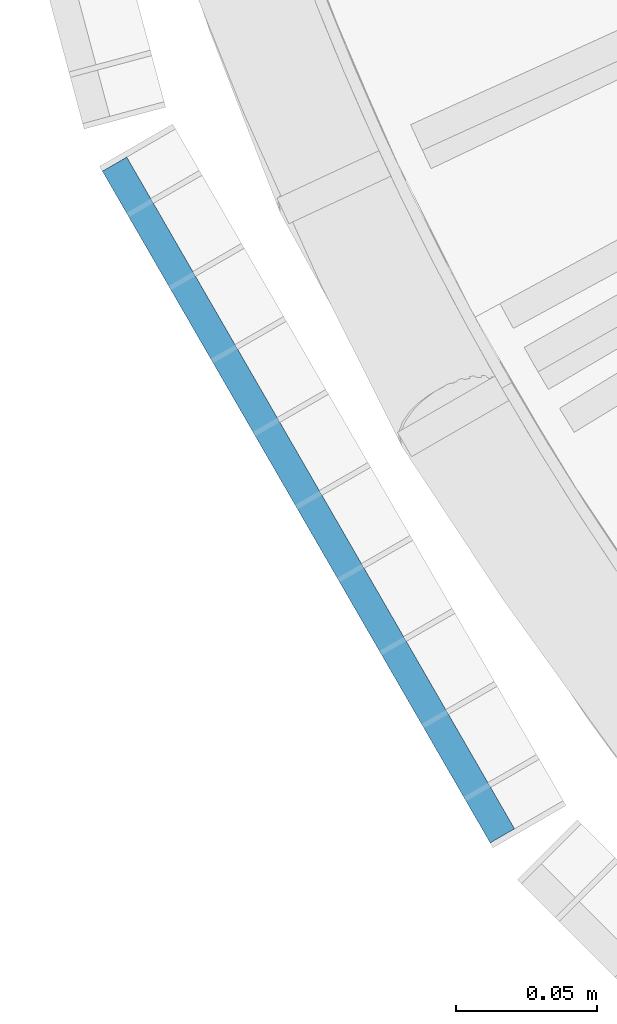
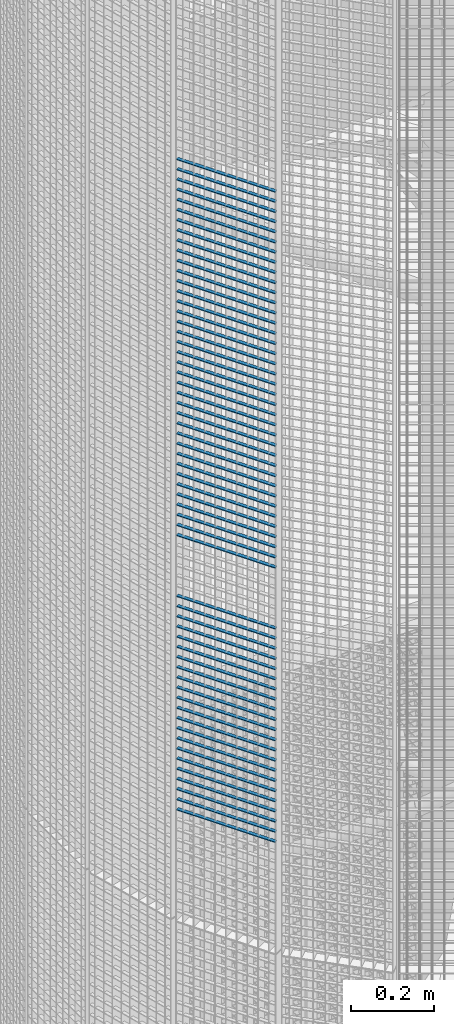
# One storey, part 110 of 1148: 60 beams, 1 element without a shape of its own.
"""IFC2X3 building model written with IfcOpenShell, lengths in millimetres."""

from ifc_helpers import new_model, si_unit, frame, origin_with_axes, origin_2d_with_axis, place, context, subcontext, project, spatial, rectangle, extrude, material, type_object, element, aggregate, save


model = new_model("IFC2X3")

# Units and contexts
model_context = context("Model", 3, precision=1e-05, world=origin_with_axes())
body_context = subcontext(model_context, "Body", "Model", "MODEL_VIEW")
ifc_project = project(units=[si_unit("LENGTHUNIT", "METRE", prefix="MILLI"), si_unit("AREAUNIT", "SQUARE_METRE"), si_unit("VOLUMEUNIT", "CUBIC_METRE"), si_unit("MASSUNIT", "GRAM", prefix="KILO"), si_unit("TIMEUNIT", "SECOND"), si_unit("PLANEANGLEUNIT", "RADIAN"), si_unit("SOLIDANGLEUNIT", "STERADIAN"), si_unit("THERMODYNAMICTEMPERATUREUNIT", "DEGREE_CELSIUS"), si_unit("LUMINOUSINTENSITYUNIT", "LUMEN")], contexts=[model_context])

# Site, building, storey
site_placement = place(None, origin_with_axes())
site = spatial("IfcSite", under=ifc_project, at=site_placement, Name="Undefined", CompositionType="ELEMENT")
building_placement = place(site_placement, origin_with_axes())
building = spatial("IfcBuilding", under=site, at=building_placement, Name="Undefined", CompositionType="ELEMENT")
storey_placement = place(building_placement, origin_with_axes())
storey = spatial("IfcBuildingStorey", under=building, at=storey_placement, Name="Undefined", CompositionType="ELEMENT", Elevation=0.0)

# Assembly, beams
assembly_placement = place(storey_placement, origin_with_axes())
assembly = element("IfcElementAssembly", 1, at=assembly_placement, inside=storey, Name="BORDURE", AssemblyPlace="NOTDEFINED", PredefinedType="NOTDEFINED")
ifc_material = material(Name="STEEL/S235JR")
beam_type = type_object("IfcBeamType", Name="PL2*10", PredefinedType="NOTDEFINED")
beam_1_placement = place(assembly_placement, frame((-1033.29996828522, -437.231955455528, 14250.0), z_axis=(-0.866025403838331, -0.499999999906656, 0.0), x_axis=(0.499999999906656, -0.866025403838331, 0.0)))
beam_1 = element("IfcBeam", 2, at=beam_1_placement, type_object=beam_type, material=ifc_material, Name="ENTRETOISE", context=body_context, shape_type="SweptSolid", body=[
    extrude(rectangle(XDim=2.0, YDim=10.0, at=origin_2d_with_axis()), frame((275.999999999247, 9.09494701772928e-13, 1.53210777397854e-14), z_axis=(-1.0, 0.0, 0.0), x_axis=(0.0, -1.0, 0.0)), (0.0, 0.0, 1.0), 276.0),
])
beam_2_placement = place(assembly_placement, frame((-1033.29996828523, -437.231955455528, 14220.0), z_axis=(-0.866025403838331, -0.499999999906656, 0.0), x_axis=(0.499999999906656, -0.866025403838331, 0.0)))
beam_2 = element("IfcBeam", 3, at=beam_2_placement, type_object=beam_type, material=ifc_material, Name="ENTRETOISE", context=body_context, shape_type="SweptSolid", body=[
    extrude(rectangle(XDim=2.0, YDim=10.0, at=origin_2d_with_axis()), frame((275.999999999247, 9.09494701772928e-13, 1.53210777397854e-14), z_axis=(-1.0, 0.0, 0.0), x_axis=(0.0, -1.0, 0.0)), (0.0, 0.0, 1.0), 276.0),
])
beam_3_placement = place(assembly_placement, frame((-1033.29996828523, -437.231955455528, 14190.0), z_axis=(-0.866025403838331, -0.499999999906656, 0.0), x_axis=(0.499999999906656, -0.866025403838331, 0.0)))
beam_3 = element("IfcBeam", 4, at=beam_3_placement, type_object=beam_type, material=ifc_material, Name="ENTRETOISE", context=body_context, shape_type="SweptSolid", body=[
    extrude(rectangle(XDim=2.0, YDim=10.0, at=origin_2d_with_axis()), frame((275.999999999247, 9.09494701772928e-13, 1.53210777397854e-14), z_axis=(-1.0, 0.0, 0.0), x_axis=(0.0, -1.0, 0.0)), (0.0, 0.0, 1.0), 276.0),
])
beam_4_placement = place(assembly_placement, frame((-1033.29996828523, -437.231955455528, 14160.0), z_axis=(-0.866025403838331, -0.499999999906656, 0.0), x_axis=(0.499999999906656, -0.866025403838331, 0.0)))
beam_4 = element("IfcBeam", 5, at=beam_4_placement, type_object=beam_type, material=ifc_material, Name="ENTRETOISE", context=body_context, shape_type="SweptSolid", body=[
    extrude(rectangle(XDim=2.0, YDim=10.0, at=origin_2d_with_axis()), frame((275.999999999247, 9.09494701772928e-13, 1.53210777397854e-14), z_axis=(-1.0, 0.0, 0.0), x_axis=(0.0, -1.0, 0.0)), (0.0, 0.0, 1.0), 276.0),
])
beam_5_placement = place(assembly_placement, frame((-1033.29996828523, -437.231955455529, 14130.0), z_axis=(-0.866025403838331, -0.499999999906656, 0.0), x_axis=(0.499999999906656, -0.866025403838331, 0.0)))
beam_5 = element("IfcBeam", 6, at=beam_5_placement, type_object=beam_type, material=ifc_material, Name="ENTRETOISE", context=body_context, shape_type="SweptSolid", body=[
    extrude(rectangle(XDim=2.0, YDim=10.0, at=origin_2d_with_axis()), frame((275.999999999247, 9.09494701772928e-13, 1.53210777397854e-14), z_axis=(-1.0, 0.0, 0.0), x_axis=(0.0, -1.0, 0.0)), (0.0, 0.0, 1.0), 276.0),
])
beam_6_placement = place(assembly_placement, frame((-1033.29996828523, -437.231955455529, 14100.0), z_axis=(-0.866025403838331, -0.499999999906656, 0.0), x_axis=(0.499999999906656, -0.866025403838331, 0.0)))
beam_6 = element("IfcBeam", 7, at=beam_6_placement, type_object=beam_type, material=ifc_material, Name="ENTRETOISE", context=body_context, shape_type="SweptSolid", body=[
    extrude(rectangle(XDim=2.0, YDim=10.0, at=origin_2d_with_axis()), frame((275.999999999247, 9.09494701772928e-13, 1.53210777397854e-14), z_axis=(-1.0, 0.0, 0.0), x_axis=(0.0, -1.0, 0.0)), (0.0, 0.0, 1.0), 276.0),
])
beam_7_placement = place(assembly_placement, frame((-1033.29996828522, -437.231955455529, 14070.0), z_axis=(-0.866025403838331, -0.499999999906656, 0.0), x_axis=(0.499999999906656, -0.866025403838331, 0.0)))
beam_7 = element("IfcBeam", 8, at=beam_7_placement, type_object=beam_type, material=ifc_material, Name="ENTRETOISE", context=body_context, shape_type="SweptSolid", body=[
    extrude(rectangle(XDim=2.0, YDim=10.0, at=origin_2d_with_axis()), frame((275.999999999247, 9.09494701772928e-13, 1.53210777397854e-14), z_axis=(-1.0, 0.0, 0.0), x_axis=(0.0, -1.0, 0.0)), (0.0, 0.0, 1.0), 276.0),
])
beam_8_placement = place(assembly_placement, frame((-1033.29996828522, -437.231955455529, 14040.0), z_axis=(-0.866025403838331, -0.499999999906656, 0.0), x_axis=(0.499999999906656, -0.866025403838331, 0.0)))
beam_8 = element("IfcBeam", 9, at=beam_8_placement, type_object=beam_type, material=ifc_material, Name="ENTRETOISE", context=body_context, shape_type="SweptSolid", body=[
    extrude(rectangle(XDim=2.0, YDim=10.0, at=origin_2d_with_axis()), frame((275.999999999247, 9.09494701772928e-13, 1.53210777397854e-14), z_axis=(-1.0, 0.0, 0.0), x_axis=(0.0, -1.0, 0.0)), (0.0, 0.0, 1.0), 276.0),
])
beam_9_placement = place(assembly_placement, frame((-1033.29996828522, -437.231955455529, 14010.0), z_axis=(-0.866025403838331, -0.499999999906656, 0.0), x_axis=(0.499999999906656, -0.866025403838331, 0.0)))
beam_9 = element("IfcBeam", 10, at=beam_9_placement, type_object=beam_type, material=ifc_material, Name="ENTRETOISE", context=body_context, shape_type="SweptSolid", body=[
    extrude(rectangle(XDim=2.0, YDim=10.0, at=origin_2d_with_axis()), frame((275.999999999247, 9.09494701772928e-13, 1.53210777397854e-14), z_axis=(-1.0, 0.0, 0.0), x_axis=(0.0, -1.0, 0.0)), (0.0, 0.0, 1.0), 276.0),
])
beam_10_placement = place(assembly_placement, frame((-1033.29996828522, -437.231955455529, 13980.0), z_axis=(-0.866025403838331, -0.499999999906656, 0.0), x_axis=(0.499999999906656, -0.866025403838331, 0.0)))
beam_10 = element("IfcBeam", 11, at=beam_10_placement, type_object=beam_type, material=ifc_material, Name="ENTRETOISE", context=body_context, shape_type="SweptSolid", body=[
    extrude(rectangle(XDim=2.0, YDim=10.0, at=origin_2d_with_axis()), frame((275.999999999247, 9.09494701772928e-13, 1.53210777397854e-14), z_axis=(-1.0, 0.0, 0.0), x_axis=(0.0, -1.0, 0.0)), (0.0, 0.0, 1.0), 276.0),
])
beam_11_placement = place(assembly_placement, frame((-1033.29996828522, -437.231955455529, 13950.0), z_axis=(-0.866025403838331, -0.499999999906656, 0.0), x_axis=(0.499999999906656, -0.866025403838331, 0.0)))
beam_11 = element("IfcBeam", 12, at=beam_11_placement, type_object=beam_type, material=ifc_material, Name="ENTRETOISE", context=body_context, shape_type="SweptSolid", body=[
    extrude(rectangle(XDim=2.0, YDim=10.0, at=origin_2d_with_axis()), frame((275.999999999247, 9.09494701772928e-13, 1.53210777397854e-14), z_axis=(-1.0, 0.0, 0.0), x_axis=(0.0, -1.0, 0.0)), (0.0, 0.0, 1.0), 276.0),
])
beam_12_placement = place(assembly_placement, frame((-1033.29996828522, -437.231955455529, 13920.0), z_axis=(-0.866025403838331, -0.499999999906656, 0.0), x_axis=(0.499999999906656, -0.866025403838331, 0.0)))
beam_12 = element("IfcBeam", 13, at=beam_12_placement, type_object=beam_type, material=ifc_material, Name="ENTRETOISE", context=body_context, shape_type="SweptSolid", body=[
    extrude(rectangle(XDim=2.0, YDim=10.0, at=origin_2d_with_axis()), frame((275.999999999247, 9.09494701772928e-13, 1.53210777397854e-14), z_axis=(-1.0, 0.0, 0.0), x_axis=(0.0, -1.0, 0.0)), (0.0, 0.0, 1.0), 276.0),
])
beam_13_placement = place(assembly_placement, frame((-1033.29996828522, -437.231955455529, 13890.0), z_axis=(-0.866025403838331, -0.499999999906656, 0.0), x_axis=(0.499999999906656, -0.866025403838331, 0.0)))
beam_13 = element("IfcBeam", 14, at=beam_13_placement, type_object=beam_type, material=ifc_material, Name="ENTRETOISE", context=body_context, shape_type="SweptSolid", body=[
    extrude(rectangle(XDim=2.0, YDim=10.0, at=origin_2d_with_axis()), frame((275.999999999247, 9.09494701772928e-13, 1.53210777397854e-14), z_axis=(-1.0, 0.0, 0.0), x_axis=(0.0, -1.0, 0.0)), (0.0, 0.0, 1.0), 276.0),
])
beam_14_placement = place(assembly_placement, frame((-1033.29996828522, -437.23195545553, 13860.0), z_axis=(-0.866025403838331, -0.499999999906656, 0.0), x_axis=(0.499999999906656, -0.866025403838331, 0.0)))
beam_14 = element("IfcBeam", 15, at=beam_14_placement, type_object=beam_type, material=ifc_material, Name="ENTRETOISE", context=body_context, shape_type="SweptSolid", body=[
    extrude(rectangle(XDim=2.0, YDim=10.0, at=origin_2d_with_axis()), frame((275.999999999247, 9.09494701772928e-13, 1.53210777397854e-14), z_axis=(-1.0, 0.0, 0.0), x_axis=(0.0, -1.0, 0.0)), (0.0, 0.0, 1.0), 276.0),
])
beam_15_placement = place(assembly_placement, frame((-1033.29996828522, -437.23195545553, 13830.0), z_axis=(-0.866025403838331, -0.499999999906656, 0.0), x_axis=(0.499999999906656, -0.866025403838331, 0.0)))
beam_15 = element("IfcBeam", 16, at=beam_15_placement, type_object=beam_type, material=ifc_material, Name="ENTRETOISE", context=body_context, shape_type="SweptSolid", body=[
    extrude(rectangle(XDim=2.0, YDim=10.0, at=origin_2d_with_axis()), frame((275.999999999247, 9.09494701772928e-13, 1.53210777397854e-14), z_axis=(-1.0, 0.0, 0.0), x_axis=(0.0, -1.0, 0.0)), (0.0, 0.0, 1.0), 276.0),
])
beam_16_placement = place(assembly_placement, frame((-1033.29996828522, -437.23195545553, 13800.0), z_axis=(-0.866025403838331, -0.499999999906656, 0.0), x_axis=(0.499999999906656, -0.866025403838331, 0.0)))
beam_16 = element("IfcBeam", 17, at=beam_16_placement, type_object=beam_type, material=ifc_material, Name="ENTRETOISE", context=body_context, shape_type="SweptSolid", body=[
    extrude(rectangle(XDim=2.0, YDim=10.0, at=origin_2d_with_axis()), frame((275.999999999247, 9.09494701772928e-13, 1.53210777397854e-14), z_axis=(-1.0, 0.0, 0.0), x_axis=(0.0, -1.0, 0.0)), (0.0, 0.0, 1.0), 276.0),
])
beam_17_placement = place(assembly_placement, frame((-1033.29996828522, -437.23195545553, 13770.0), z_axis=(-0.866025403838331, -0.499999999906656, 0.0), x_axis=(0.499999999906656, -0.866025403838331, 0.0)))
beam_17 = element("IfcBeam", 18, at=beam_17_placement, type_object=beam_type, material=ifc_material, Name="ENTRETOISE", context=body_context, shape_type="SweptSolid", body=[
    extrude(rectangle(XDim=2.0, YDim=10.0, at=origin_2d_with_axis()), frame((275.999999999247, 9.09494701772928e-13, 1.53210777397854e-14), z_axis=(-1.0, 0.0, 0.0), x_axis=(0.0, -1.0, 0.0)), (0.0, 0.0, 1.0), 276.0),
])
beam_18_placement = place(assembly_placement, frame((-1033.29996828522, -437.23195545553, 13740.0), z_axis=(-0.866025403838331, -0.499999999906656, 0.0), x_axis=(0.499999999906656, -0.866025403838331, 0.0)))
beam_18 = element("IfcBeam", 19, at=beam_18_placement, type_object=beam_type, material=ifc_material, Name="ENTRETOISE", context=body_context, shape_type="SweptSolid", body=[
    extrude(rectangle(XDim=2.0, YDim=10.0, at=origin_2d_with_axis()), frame((275.999999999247, 9.09494701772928e-13, 1.53210777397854e-14), z_axis=(-1.0, 0.0, 0.0), x_axis=(0.0, -1.0, 0.0)), (0.0, 0.0, 1.0), 276.0),
])
beam_19_placement = place(assembly_placement, frame((-1033.29996828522, -437.23195545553, 13710.0), z_axis=(-0.866025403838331, -0.499999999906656, 0.0), x_axis=(0.499999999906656, -0.866025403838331, 0.0)))
beam_19 = element("IfcBeam", 20, at=beam_19_placement, type_object=beam_type, material=ifc_material, Name="ENTRETOISE", context=body_context, shape_type="SweptSolid", body=[
    extrude(rectangle(XDim=2.0, YDim=10.0, at=origin_2d_with_axis()), frame((275.999999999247, 9.09494701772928e-13, 1.53210777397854e-14), z_axis=(-1.0, 0.0, 0.0), x_axis=(0.0, -1.0, 0.0)), (0.0, 0.0, 1.0), 276.0),
])
beam_20_placement = place(assembly_placement, frame((-1033.29996828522, -437.23195545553, 13680.0), z_axis=(-0.866025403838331, -0.499999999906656, 0.0), x_axis=(0.499999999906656, -0.866025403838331, 0.0)))
beam_20 = element("IfcBeam", 21, at=beam_20_placement, type_object=beam_type, material=ifc_material, Name="ENTRETOISE", context=body_context, shape_type="SweptSolid", body=[
    extrude(rectangle(XDim=2.0, YDim=10.0, at=origin_2d_with_axis()), frame((275.999999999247, 9.09494701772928e-13, 1.53210777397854e-14), z_axis=(-1.0, 0.0, 0.0), x_axis=(0.0, -1.0, 0.0)), (0.0, 0.0, 1.0), 276.0),
])
beam_21_placement = place(assembly_placement, frame((-1033.29996828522, -437.23195545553, 13650.0), z_axis=(-0.866025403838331, -0.499999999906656, 0.0), x_axis=(0.499999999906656, -0.866025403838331, 0.0)))
beam_21 = element("IfcBeam", 22, at=beam_21_placement, type_object=beam_type, material=ifc_material, Name="ENTRETOISE", context=body_context, shape_type="SweptSolid", body=[
    extrude(rectangle(XDim=2.0, YDim=10.0, at=origin_2d_with_axis()), frame((275.999999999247, 9.09494701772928e-13, 1.53210777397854e-14), z_axis=(-1.0, 0.0, 0.0), x_axis=(0.0, -1.0, 0.0)), (0.0, 0.0, 1.0), 276.0),
])
beam_22_placement = place(assembly_placement, frame((-1033.29996828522, -437.23195545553, 13620.0), z_axis=(-0.866025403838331, -0.499999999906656, 0.0), x_axis=(0.499999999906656, -0.866025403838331, 0.0)))
beam_22 = element("IfcBeam", 23, at=beam_22_placement, type_object=beam_type, material=ifc_material, Name="ENTRETOISE", context=body_context, shape_type="SweptSolid", body=[
    extrude(rectangle(XDim=2.0, YDim=10.0, at=origin_2d_with_axis()), frame((275.999999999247, 9.09494701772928e-13, 1.53210777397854e-14), z_axis=(-1.0, 0.0, 0.0), x_axis=(0.0, -1.0, 0.0)), (0.0, 0.0, 1.0), 276.0),
])
beam_23_placement = place(assembly_placement, frame((-1033.29996828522, -437.23195545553, 13590.0), z_axis=(-0.866025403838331, -0.499999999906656, 0.0), x_axis=(0.499999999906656, -0.866025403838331, 0.0)))
beam_23 = element("IfcBeam", 24, at=beam_23_placement, type_object=beam_type, material=ifc_material, Name="ENTRETOISE", context=body_context, shape_type="SweptSolid", body=[
    extrude(rectangle(XDim=2.0, YDim=10.0, at=origin_2d_with_axis()), frame((275.999999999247, 9.09494701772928e-13, 1.53210777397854e-14), z_axis=(-1.0, 0.0, 0.0), x_axis=(0.0, -1.0, 0.0)), (0.0, 0.0, 1.0), 276.0),
])
beam_24_placement = place(assembly_placement, frame((-1033.29996828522, -437.23195545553, 13560.0), z_axis=(-0.866025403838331, -0.499999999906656, 0.0), x_axis=(0.499999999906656, -0.866025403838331, 0.0)))
beam_24 = element("IfcBeam", 25, at=beam_24_placement, type_object=beam_type, material=ifc_material, Name="ENTRETOISE", context=body_context, shape_type="SweptSolid", body=[
    extrude(rectangle(XDim=2.0, YDim=10.0, at=origin_2d_with_axis()), frame((275.999999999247, 9.09494701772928e-13, 1.53210777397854e-14), z_axis=(-1.0, 0.0, 0.0), x_axis=(0.0, -1.0, 0.0)), (0.0, 0.0, 1.0), 276.0),
])
beam_25_placement = place(assembly_placement, frame((-1033.29996828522, -437.23195545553, 13530.0), z_axis=(-0.866025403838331, -0.499999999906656, 0.0), x_axis=(0.499999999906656, -0.866025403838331, 0.0)))
beam_25 = element("IfcBeam", 26, at=beam_25_placement, type_object=beam_type, material=ifc_material, Name="ENTRETOISE", context=body_context, shape_type="SweptSolid", body=[
    extrude(rectangle(XDim=2.0, YDim=10.0, at=origin_2d_with_axis()), frame((275.999999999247, 9.09494701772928e-13, 1.53210777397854e-14), z_axis=(-1.0, 0.0, 0.0), x_axis=(0.0, -1.0, 0.0)), (0.0, 0.0, 1.0), 276.0),
])
beam_26_placement = place(assembly_placement, frame((-1033.29996828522, -437.231955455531, 13500.0), z_axis=(-0.866025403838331, -0.499999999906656, 0.0), x_axis=(0.499999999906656, -0.866025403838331, 0.0)))
beam_26 = element("IfcBeam", 27, at=beam_26_placement, type_object=beam_type, material=ifc_material, Name="ENTRETOISE", context=body_context, shape_type="SweptSolid", body=[
    extrude(rectangle(XDim=2.0, YDim=10.0, at=origin_2d_with_axis()), frame((275.999999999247, 9.09494701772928e-13, 1.53210777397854e-14), z_axis=(-1.0, 0.0, 0.0), x_axis=(0.0, -1.0, 0.0)), (0.0, 0.0, 1.0), 276.0),
])
beam_27_placement = place(assembly_placement, frame((-1033.29996828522, -437.231955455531, 13470.0), z_axis=(-0.866025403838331, -0.499999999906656, 0.0), x_axis=(0.499999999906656, -0.866025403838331, 0.0)))
beam_27 = element("IfcBeam", 28, at=beam_27_placement, type_object=beam_type, material=ifc_material, Name="ENTRETOISE", context=body_context, shape_type="SweptSolid", body=[
    extrude(rectangle(XDim=2.0, YDim=10.0, at=origin_2d_with_axis()), frame((275.999999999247, 9.09494701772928e-13, 1.53210777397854e-14), z_axis=(-1.0, 0.0, 0.0), x_axis=(0.0, -1.0, 0.0)), (0.0, 0.0, 1.0), 276.0),
])
beam_28_placement = place(assembly_placement, frame((-1033.29996828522, -437.231955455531, 13440.0), z_axis=(-0.866025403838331, -0.499999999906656, 0.0), x_axis=(0.499999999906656, -0.866025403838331, 0.0)))
beam_28 = element("IfcBeam", 29, at=beam_28_placement, type_object=beam_type, material=ifc_material, Name="ENTRETOISE", context=body_context, shape_type="SweptSolid", body=[
    extrude(rectangle(XDim=2.0, YDim=10.0, at=origin_2d_with_axis()), frame((275.999999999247, 9.09494701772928e-13, 1.53210777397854e-14), z_axis=(-1.0, 0.0, 0.0), x_axis=(0.0, -1.0, 0.0)), (0.0, 0.0, 1.0), 276.0),
])
beam_29_placement = place(assembly_placement, frame((-1033.29996828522, -437.231955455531, 13410.0), z_axis=(-0.866025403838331, -0.499999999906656, 0.0), x_axis=(0.499999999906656, -0.866025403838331, 0.0)))
beam_29 = element("IfcBeam", 30, at=beam_29_placement, type_object=beam_type, material=ifc_material, Name="ENTRETOISE", context=body_context, shape_type="SweptSolid", body=[
    extrude(rectangle(XDim=2.0, YDim=10.0, at=origin_2d_with_axis()), frame((275.999999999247, 9.09494701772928e-13, 1.53210777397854e-14), z_axis=(-1.0, 0.0, 0.0), x_axis=(0.0, -1.0, 0.0)), (0.0, 0.0, 1.0), 276.0),
])
beam_30_placement = place(assembly_placement, frame((-1033.29996828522, -437.231955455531, 13380.0), z_axis=(-0.866025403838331, -0.499999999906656, 0.0), x_axis=(0.499999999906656, -0.866025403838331, 0.0)))
beam_30 = element("IfcBeam", 31, at=beam_30_placement, type_object=beam_type, material=ifc_material, Name="ENTRETOISE", context=body_context, shape_type="SweptSolid", body=[
    extrude(rectangle(XDim=2.0, YDim=10.0, at=origin_2d_with_axis()), frame((275.999999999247, 9.09494701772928e-13, 1.53210777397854e-14), z_axis=(-1.0, 0.0, 0.0), x_axis=(0.0, -1.0, 0.0)), (0.0, 0.0, 1.0), 276.0),
])
beam_31_placement = place(assembly_placement, frame((-1033.29996828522, -437.231955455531, 13350.0), z_axis=(-0.866025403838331, -0.499999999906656, 0.0), x_axis=(0.499999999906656, -0.866025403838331, 0.0)))
beam_31 = element("IfcBeam", 32, at=beam_31_placement, type_object=beam_type, material=ifc_material, Name="ENTRETOISE", context=body_context, shape_type="SweptSolid", body=[
    extrude(rectangle(XDim=2.0, YDim=10.0, at=origin_2d_with_axis()), frame((275.999999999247, 9.09494701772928e-13, 1.53210777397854e-14), z_axis=(-1.0, 0.0, 0.0), x_axis=(0.0, -1.0, 0.0)), (0.0, 0.0, 1.0), 276.0),
])
beam_32_placement = place(assembly_placement, frame((-1033.29996828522, -437.231955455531, 13320.0), z_axis=(-0.866025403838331, -0.499999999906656, 0.0), x_axis=(0.499999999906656, -0.866025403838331, 0.0)))
beam_32 = element("IfcBeam", 33, at=beam_32_placement, type_object=beam_type, material=ifc_material, Name="ENTRETOISE", context=body_context, shape_type="SweptSolid", body=[
    extrude(rectangle(XDim=2.0, YDim=10.0, at=origin_2d_with_axis()), frame((275.999999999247, 9.09494701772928e-13, 1.53210777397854e-14), z_axis=(-1.0, 0.0, 0.0), x_axis=(0.0, -1.0, 0.0)), (0.0, 0.0, 1.0), 276.0),
])
beam_33_placement = place(assembly_placement, frame((-1033.29996828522, -437.231955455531, 13290.0), z_axis=(-0.866025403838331, -0.499999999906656, 0.0), x_axis=(0.499999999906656, -0.866025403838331, 0.0)))
beam_33 = element("IfcBeam", 34, at=beam_33_placement, type_object=beam_type, material=ifc_material, Name="ENTRETOISE", context=body_context, shape_type="SweptSolid", body=[
    extrude(rectangle(XDim=2.0, YDim=10.0, at=origin_2d_with_axis()), frame((275.999999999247, 9.09494701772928e-13, 1.53210777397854e-14), z_axis=(-1.0, 0.0, 0.0), x_axis=(0.0, -1.0, 0.0)), (0.0, 0.0, 1.0), 276.0),
])
beam_34_placement = place(assembly_placement, frame((-1033.29996828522, -437.231955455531, 13260.0), z_axis=(-0.866025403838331, -0.499999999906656, 0.0), x_axis=(0.499999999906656, -0.866025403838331, 0.0)))
beam_34 = element("IfcBeam", 35, at=beam_34_placement, type_object=beam_type, material=ifc_material, Name="ENTRETOISE", context=body_context, shape_type="SweptSolid", body=[
    extrude(rectangle(XDim=2.0, YDim=10.0, at=origin_2d_with_axis()), frame((275.999999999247, 9.09494701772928e-13, 1.53210777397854e-14), z_axis=(-1.0, 0.0, 0.0), x_axis=(0.0, -1.0, 0.0)), (0.0, 0.0, 1.0), 276.0),
])
beam_35_placement = place(assembly_placement, frame((-1033.29996828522, -437.231955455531, 13230.0), z_axis=(-0.866025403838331, -0.499999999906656, 0.0), x_axis=(0.499999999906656, -0.866025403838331, 0.0)))
beam_35 = element("IfcBeam", 36, at=beam_35_placement, type_object=beam_type, material=ifc_material, Name="ENTRETOISE", context=body_context, shape_type="SweptSolid", body=[
    extrude(rectangle(XDim=2.0, YDim=10.0, at=origin_2d_with_axis()), frame((275.999999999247, 9.09494701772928e-13, 1.53210777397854e-14), z_axis=(-1.0, 0.0, 0.0), x_axis=(0.0, -1.0, 0.0)), (0.0, 0.0, 1.0), 276.0),
])
beam_36_placement = place(assembly_placement, frame((-1033.29996828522, -437.231955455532, 13200.0), z_axis=(-0.866025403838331, -0.499999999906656, 0.0), x_axis=(0.499999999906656, -0.866025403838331, 0.0)))
beam_36 = element("IfcBeam", 37, at=beam_36_placement, type_object=beam_type, material=ifc_material, Name="ENTRETOISE", context=body_context, shape_type="SweptSolid", body=[
    extrude(rectangle(XDim=2.0, YDim=10.0, at=origin_2d_with_axis()), frame((275.999999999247, 9.09494701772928e-13, 1.53210777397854e-14), z_axis=(-1.0, 0.0, 0.0), x_axis=(0.0, -1.0, 0.0)), (0.0, 0.0, 1.0), 276.0),
])
beam_37_placement = place(assembly_placement, frame((-1033.29996828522, -437.231955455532, 13170.0), z_axis=(-0.866025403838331, -0.499999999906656, 0.0), x_axis=(0.499999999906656, -0.866025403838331, 0.0)))
beam_37 = element("IfcBeam", 38, at=beam_37_placement, type_object=beam_type, material=ifc_material, Name="ENTRETOISE", context=body_context, shape_type="SweptSolid", body=[
    extrude(rectangle(XDim=2.0, YDim=10.0, at=origin_2d_with_axis()), frame((275.999999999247, 9.09494701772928e-13, 1.53210777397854e-14), z_axis=(-1.0, 0.0, 0.0), x_axis=(0.0, -1.0, 0.0)), (0.0, 0.0, 1.0), 276.0),
])
beam_38_placement = place(assembly_placement, frame((-1033.29996828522, -437.231955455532, 13140.0), z_axis=(-0.866025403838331, -0.499999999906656, 0.0), x_axis=(0.499999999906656, -0.866025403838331, 0.0)))
beam_38 = element("IfcBeam", 39, at=beam_38_placement, type_object=beam_type, material=ifc_material, Name="ENTRETOISE", context=body_context, shape_type="SweptSolid", body=[
    extrude(rectangle(XDim=2.0, YDim=10.0, at=origin_2d_with_axis()), frame((275.999999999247, 9.09494701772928e-13, 1.53210777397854e-14), z_axis=(-1.0, 0.0, 0.0), x_axis=(0.0, -1.0, 0.0)), (0.0, 0.0, 1.0), 276.0),
])
beam_39_placement = place(assembly_placement, frame((-1033.29996828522, -437.231955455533, 12720.0), z_axis=(-0.866025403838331, -0.499999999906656, 0.0), x_axis=(0.499999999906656, -0.866025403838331, 0.0)))
beam_39 = element("IfcBeam", 40, at=beam_39_placement, type_object=beam_type, material=ifc_material, Name="ENTRETOISE", context=body_context, shape_type="SweptSolid", body=[
    extrude(rectangle(XDim=2.0, YDim=10.0, at=origin_2d_with_axis()), frame((275.999999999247, 9.09494701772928e-13, 1.53210777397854e-14), z_axis=(-1.0, 0.0, 0.0), x_axis=(0.0, -1.0, 0.0)), (0.0, 0.0, 1.0), 276.0),
])
beam_40_placement = place(assembly_placement, frame((-1033.29996828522, -437.231955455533, 12690.0), z_axis=(-0.866025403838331, -0.499999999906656, 0.0), x_axis=(0.499999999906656, -0.866025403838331, 0.0)))
beam_40 = element("IfcBeam", 41, at=beam_40_placement, type_object=beam_type, material=ifc_material, Name="ENTRETOISE", context=body_context, shape_type="SweptSolid", body=[
    extrude(rectangle(XDim=2.0, YDim=10.0, at=origin_2d_with_axis()), frame((275.999999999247, 9.09494701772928e-13, 1.53210777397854e-14), z_axis=(-1.0, 0.0, 0.0), x_axis=(0.0, -1.0, 0.0)), (0.0, 0.0, 1.0), 276.0),
])
beam_41_placement = place(assembly_placement, frame((-1033.29996828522, -437.231955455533, 12750.0), z_axis=(-0.866025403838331, -0.499999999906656, 0.0), x_axis=(0.499999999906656, -0.866025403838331, 0.0)))
beam_41 = element("IfcBeam", 42, at=beam_41_placement, type_object=beam_type, material=ifc_material, Name="ENTRETOISE", context=body_context, shape_type="SweptSolid", body=[
    extrude(rectangle(XDim=2.0, YDim=10.0, at=origin_2d_with_axis()), frame((275.999999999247, 9.09494701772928e-13, 1.53210777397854e-14), z_axis=(-1.0, 0.0, 0.0), x_axis=(0.0, -1.0, 0.0)), (0.0, 0.0, 1.0), 276.0),
])
beam_42_placement = place(assembly_placement, frame((-1033.29996828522, -437.231955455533, 12660.0), z_axis=(-0.866025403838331, -0.499999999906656, 0.0), x_axis=(0.499999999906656, -0.866025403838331, 0.0)))
beam_42 = element("IfcBeam", 43, at=beam_42_placement, type_object=beam_type, material=ifc_material, Name="ENTRETOISE", context=body_context, shape_type="SweptSolid", body=[
    extrude(rectangle(XDim=2.0, YDim=10.0, at=origin_2d_with_axis()), frame((275.999999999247, 9.09494701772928e-13, 1.53210777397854e-14), z_axis=(-1.0, 0.0, 0.0), x_axis=(0.0, -1.0, 0.0)), (0.0, 0.0, 1.0), 276.0),
])
beam_43_placement = place(assembly_placement, frame((-1033.29996828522, -437.231955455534, 12630.0), z_axis=(-0.866025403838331, -0.499999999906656, 0.0), x_axis=(0.499999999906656, -0.866025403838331, 0.0)))
beam_43 = element("IfcBeam", 44, at=beam_43_placement, type_object=beam_type, material=ifc_material, Name="ENTRETOISE", context=body_context, shape_type="SweptSolid", body=[
    extrude(rectangle(XDim=2.0, YDim=10.0, at=origin_2d_with_axis()), frame((275.999999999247, 9.09494701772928e-13, 1.53210777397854e-14), z_axis=(-1.0, 0.0, 0.0), x_axis=(0.0, -1.0, 0.0)), (0.0, 0.0, 1.0), 276.0),
])
beam_44_placement = place(assembly_placement, frame((-1033.29996828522, -437.231955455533, 12780.0), z_axis=(-0.866025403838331, -0.499999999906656, 0.0), x_axis=(0.499999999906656, -0.866025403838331, 0.0)))
beam_44 = element("IfcBeam", 45, at=beam_44_placement, type_object=beam_type, material=ifc_material, Name="ENTRETOISE", context=body_context, shape_type="SweptSolid", body=[
    extrude(rectangle(XDim=2.0, YDim=10.0, at=origin_2d_with_axis()), frame((275.999999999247, 9.09494701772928e-13, 1.53210777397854e-14), z_axis=(-1.0, 0.0, 0.0), x_axis=(0.0, -1.0, 0.0)), (0.0, 0.0, 1.0), 276.0),
])
beam_45_placement = place(assembly_placement, frame((-1033.29996828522, -437.231955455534, 12600.0), z_axis=(-0.866025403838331, -0.499999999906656, 0.0), x_axis=(0.499999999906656, -0.866025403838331, 0.0)))
beam_45 = element("IfcBeam", 46, at=beam_45_placement, type_object=beam_type, material=ifc_material, Name="ENTRETOISE", context=body_context, shape_type="SweptSolid", body=[
    extrude(rectangle(XDim=2.0, YDim=10.0, at=origin_2d_with_axis()), frame((275.999999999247, 9.09494701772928e-13, 1.53210777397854e-14), z_axis=(-1.0, 0.0, 0.0), x_axis=(0.0, -1.0, 0.0)), (0.0, 0.0, 1.0), 276.0),
])
beam_46_placement = place(assembly_placement, frame((-1033.29996828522, -437.231955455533, 12810.0), z_axis=(-0.866025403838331, -0.499999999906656, 0.0), x_axis=(0.499999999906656, -0.866025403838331, 0.0)))
beam_46 = element("IfcBeam", 47, at=beam_46_placement, type_object=beam_type, material=ifc_material, Name="ENTRETOISE", context=body_context, shape_type="SweptSolid", body=[
    extrude(rectangle(XDim=2.0, YDim=10.0, at=origin_2d_with_axis()), frame((275.999999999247, 9.09494701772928e-13, 1.53210777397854e-14), z_axis=(-1.0, 0.0, 0.0), x_axis=(0.0, -1.0, 0.0)), (0.0, 0.0, 1.0), 276.0),
])
beam_47_placement = place(assembly_placement, frame((-1033.29996828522, -437.231955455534, 12570.0), z_axis=(-0.866025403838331, -0.499999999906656, 0.0), x_axis=(0.499999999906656, -0.866025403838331, 0.0)))
beam_47 = element("IfcBeam", 48, at=beam_47_placement, type_object=beam_type, material=ifc_material, Name="ENTRETOISE", context=body_context, shape_type="SweptSolid", body=[
    extrude(rectangle(XDim=2.0, YDim=10.0, at=origin_2d_with_axis()), frame((275.999999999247, 9.09494701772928e-13, 1.53210777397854e-14), z_axis=(-1.0, 0.0, 0.0), x_axis=(0.0, -1.0, 0.0)), (0.0, 0.0, 1.0), 276.0),
])
beam_48_placement = place(assembly_placement, frame((-1033.29996828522, -437.231955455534, 12540.0), z_axis=(-0.866025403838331, -0.499999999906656, 0.0), x_axis=(0.499999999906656, -0.866025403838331, 0.0)))
beam_48 = element("IfcBeam", 49, at=beam_48_placement, type_object=beam_type, material=ifc_material, Name="ENTRETOISE", context=body_context, shape_type="SweptSolid", body=[
    extrude(rectangle(XDim=2.0, YDim=10.0, at=origin_2d_with_axis()), frame((275.999999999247, 9.09494701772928e-13, 1.53210777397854e-14), z_axis=(-1.0, 0.0, 0.0), x_axis=(0.0, -1.0, 0.0)), (0.0, 0.0, 1.0), 276.0),
])
beam_49_placement = place(assembly_placement, frame((-1033.29996828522, -437.231955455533, 12840.0), z_axis=(-0.866025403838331, -0.499999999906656, 0.0), x_axis=(0.499999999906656, -0.866025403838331, 0.0)))
beam_49 = element("IfcBeam", 50, at=beam_49_placement, type_object=beam_type, material=ifc_material, Name="ENTRETOISE", context=body_context, shape_type="SweptSolid", body=[
    extrude(rectangle(XDim=2.0, YDim=10.0, at=origin_2d_with_axis()), frame((275.999999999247, 9.09494701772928e-13, 1.53210777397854e-14), z_axis=(-1.0, 0.0, 0.0), x_axis=(0.0, -1.0, 0.0)), (0.0, 0.0, 1.0), 276.0),
])
beam_50_placement = place(assembly_placement, frame((-1033.29996828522, -437.231955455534, 12510.0), z_axis=(-0.866025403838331, -0.499999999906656, 0.0), x_axis=(0.499999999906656, -0.866025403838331, 0.0)))
beam_50 = element("IfcBeam", 51, at=beam_50_placement, type_object=beam_type, material=ifc_material, Name="ENTRETOISE", context=body_context, shape_type="SweptSolid", body=[
    extrude(rectangle(XDim=2.0, YDim=10.0, at=origin_2d_with_axis()), frame((275.999999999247, 9.09494701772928e-13, 1.53210777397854e-14), z_axis=(-1.0, 0.0, 0.0), x_axis=(0.0, -1.0, 0.0)), (0.0, 0.0, 1.0), 276.0),
])
beam_51_placement = place(assembly_placement, frame((-1033.29996828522, -437.231955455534, 12480.0), z_axis=(-0.866025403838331, -0.499999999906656, 0.0), x_axis=(0.499999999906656, -0.866025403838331, 0.0)))
beam_51 = element("IfcBeam", 52, at=beam_51_placement, type_object=beam_type, material=ifc_material, Name="ENTRETOISE", context=body_context, shape_type="SweptSolid", body=[
    extrude(rectangle(XDim=2.0, YDim=10.0, at=origin_2d_with_axis()), frame((275.999999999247, 9.09494701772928e-13, 1.53210777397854e-14), z_axis=(-1.0, 0.0, 0.0), x_axis=(0.0, -1.0, 0.0)), (0.0, 0.0, 1.0), 276.0),
])
beam_52_placement = place(assembly_placement, frame((-1033.29996828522, -437.231955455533, 12870.0), z_axis=(-0.866025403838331, -0.499999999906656, 0.0), x_axis=(0.499999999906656, -0.866025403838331, 0.0)))
beam_52 = element("IfcBeam", 53, at=beam_52_placement, type_object=beam_type, material=ifc_material, Name="ENTRETOISE", context=body_context, shape_type="SweptSolid", body=[
    extrude(rectangle(XDim=2.0, YDim=10.0, at=origin_2d_with_axis()), frame((275.999999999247, 9.09494701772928e-13, 1.53210777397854e-14), z_axis=(-1.0, 0.0, 0.0), x_axis=(0.0, -1.0, 0.0)), (0.0, 0.0, 1.0), 276.0),
])
beam_53_placement = place(assembly_placement, frame((-1033.29996828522, -437.231955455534, 12450.0), z_axis=(-0.866025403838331, -0.499999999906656, 0.0), x_axis=(0.499999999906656, -0.866025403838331, 0.0)))
beam_53 = element("IfcBeam", 54, at=beam_53_placement, type_object=beam_type, material=ifc_material, Name="ENTRETOISE", context=body_context, shape_type="SweptSolid", body=[
    extrude(rectangle(XDim=2.0, YDim=10.0, at=origin_2d_with_axis()), frame((275.999999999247, 9.09494701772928e-13, 1.53210777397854e-14), z_axis=(-1.0, 0.0, 0.0), x_axis=(0.0, -1.0, 0.0)), (0.0, 0.0, 1.0), 276.0),
])
beam_54_placement = place(assembly_placement, frame((-1033.29996828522, -437.231955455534, 12420.0), z_axis=(-0.866025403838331, -0.499999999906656, 0.0), x_axis=(0.499999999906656, -0.866025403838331, 0.0)))
beam_54 = element("IfcBeam", 55, at=beam_54_placement, type_object=beam_type, material=ifc_material, Name="ENTRETOISE", context=body_context, shape_type="SweptSolid", body=[
    extrude(rectangle(XDim=2.0, YDim=10.0, at=origin_2d_with_axis()), frame((275.999999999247, 9.09494701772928e-13, 1.53210777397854e-14), z_axis=(-1.0, 0.0, 0.0), x_axis=(0.0, -1.0, 0.0)), (0.0, 0.0, 1.0), 276.0),
])
beam_55_placement = place(assembly_placement, frame((-1033.29996828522, -437.231955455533, 12900.0), z_axis=(-0.866025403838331, -0.499999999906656, 0.0), x_axis=(0.499999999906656, -0.866025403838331, 0.0)))
beam_55 = element("IfcBeam", 56, at=beam_55_placement, type_object=beam_type, material=ifc_material, Name="ENTRETOISE", context=body_context, shape_type="SweptSolid", body=[
    extrude(rectangle(XDim=2.0, YDim=10.0, at=origin_2d_with_axis()), frame((275.999999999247, 9.09494701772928e-13, 1.53210777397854e-14), z_axis=(-1.0, 0.0, 0.0), x_axis=(0.0, -1.0, 0.0)), (0.0, 0.0, 1.0), 276.0),
])
beam_56_placement = place(assembly_placement, frame((-1033.29996828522, -437.231955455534, 12390.0), z_axis=(-0.866025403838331, -0.499999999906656, 0.0), x_axis=(0.499999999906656, -0.866025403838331, 0.0)))
beam_56 = element("IfcBeam", 57, at=beam_56_placement, type_object=beam_type, material=ifc_material, Name="ENTRETOISE", context=body_context, shape_type="SweptSolid", body=[
    extrude(rectangle(XDim=2.0, YDim=10.0, at=origin_2d_with_axis()), frame((275.999999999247, 9.09494701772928e-13, 1.53210777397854e-14), z_axis=(-1.0, 0.0, 0.0), x_axis=(0.0, -1.0, 0.0)), (0.0, 0.0, 1.0), 276.0),
])
beam_57_placement = place(assembly_placement, frame((-1033.29996828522, -437.231955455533, 12930.0), z_axis=(-0.866025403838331, -0.499999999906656, 0.0), x_axis=(0.499999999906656, -0.866025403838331, 0.0)))
beam_57 = element("IfcBeam", 58, at=beam_57_placement, type_object=beam_type, material=ifc_material, Name="ENTRETOISE", context=body_context, shape_type="SweptSolid", body=[
    extrude(rectangle(XDim=2.0, YDim=10.0, at=origin_2d_with_axis()), frame((275.999999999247, 9.09494701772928e-13, 1.53210777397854e-14), z_axis=(-1.0, 0.0, 0.0), x_axis=(0.0, -1.0, 0.0)), (0.0, 0.0, 1.0), 276.0),
])
beam_58_placement = place(assembly_placement, frame((-1033.29996828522, -437.231955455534, 12360.0), z_axis=(-0.866025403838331, -0.499999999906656, 0.0), x_axis=(0.499999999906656, -0.866025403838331, 0.0)))
beam_58 = element("IfcBeam", 59, at=beam_58_placement, type_object=beam_type, material=ifc_material, Name="ENTRETOISE", context=body_context, shape_type="SweptSolid", body=[
    extrude(rectangle(XDim=2.0, YDim=10.0, at=origin_2d_with_axis()), frame((275.999999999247, 9.09494701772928e-13, 1.53210777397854e-14), z_axis=(-1.0, 0.0, 0.0), x_axis=(0.0, -1.0, 0.0)), (0.0, 0.0, 1.0), 276.0),
])
beam_59_placement = place(assembly_placement, frame((-1033.29996828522, -437.231955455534, 12330.0), z_axis=(-0.866025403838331, -0.499999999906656, 0.0), x_axis=(0.499999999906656, -0.866025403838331, 0.0)))
beam_59 = element("IfcBeam", 60, at=beam_59_placement, type_object=beam_type, material=ifc_material, Name="ENTRETOISE", context=body_context, shape_type="SweptSolid", body=[
    extrude(rectangle(XDim=2.0, YDim=10.0, at=origin_2d_with_axis()), frame((275.999999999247, 9.09494701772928e-13, 1.53210777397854e-14), z_axis=(-1.0, 0.0, 0.0), x_axis=(0.0, -1.0, 0.0)), (0.0, 0.0, 1.0), 276.0),
])
beam_60_placement = place(assembly_placement, frame((-1033.29996828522, -437.231955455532, 12960.0), z_axis=(-0.866025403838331, -0.499999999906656, 0.0), x_axis=(0.499999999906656, -0.866025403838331, 0.0)))
beam_60 = element("IfcBeam", 61, at=beam_60_placement, type_object=beam_type, material=ifc_material, Name="ENTRETOISE", context=body_context, shape_type="SweptSolid", body=[
    extrude(rectangle(XDim=2.0, YDim=10.0, at=origin_2d_with_axis()), frame((275.999999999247, 9.09494701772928e-13, 1.53210777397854e-14), z_axis=(-1.0, 0.0, 0.0), x_axis=(0.0, -1.0, 0.0)), (0.0, 0.0, 1.0), 276.0),
])
aggregate(assembly, [beam_1, beam_2, beam_3, beam_4, beam_5, beam_6, beam_7, beam_8, beam_9, beam_10, beam_11, beam_12, beam_13, beam_14, beam_15, beam_16, beam_17, beam_18, beam_19, beam_20, beam_21, beam_22, beam_23, beam_24, beam_25, beam_26, beam_27, beam_28, beam_29, beam_30, beam_31, beam_32, beam_33, beam_34, beam_35, beam_36, beam_37, beam_38, beam_39, beam_40, beam_41, beam_42, beam_43, beam_44, beam_45, beam_46, beam_47, beam_48, beam_49, beam_50, beam_51, beam_52, beam_53, beam_54, beam_55, beam_56, beam_57, beam_58, beam_59, beam_60])

save(model, "model.ifc")
